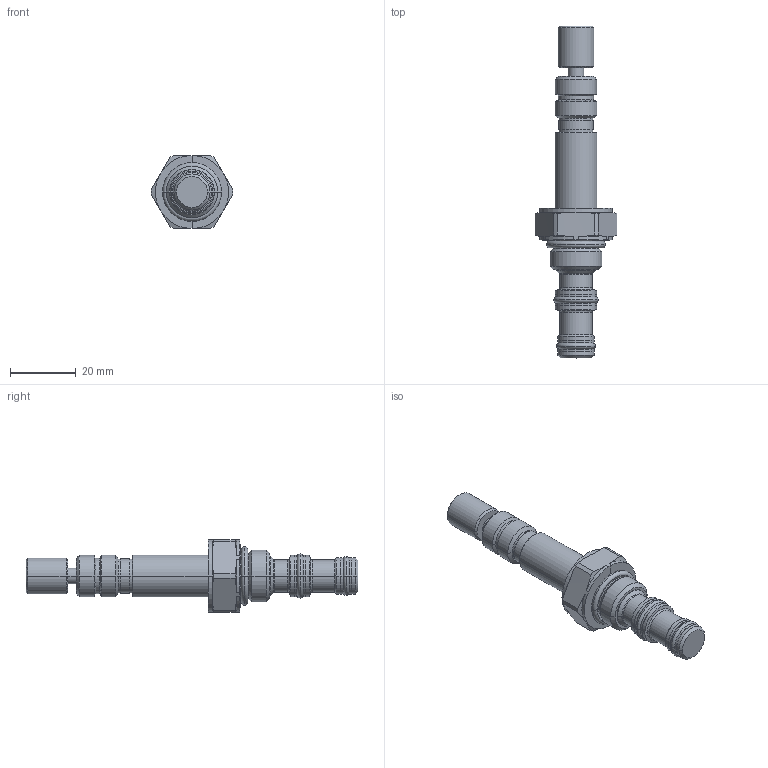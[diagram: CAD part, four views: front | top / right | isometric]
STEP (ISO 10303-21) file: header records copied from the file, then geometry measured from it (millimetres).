
FILE_DESCRIPTION((''),'2;1');
FILE_NAME('5003741_SW0001','2009-02-24T',('JCS'),(''),'PRO/ENGINEER BY PARAMETRIC TECHNOLOGY CORPORATION, 2008010','PRO/ENGINEER BY PARAMETRIC TECHNOLOGY CORPORATION, 2008010','');
FILE_SCHEMA(('CONFIG_CONTROL_DESIGN'));
Length unit declared in the file: inch
Products named in the file (1): 5003741_SW0001
Bounding box: 24.93 x 101.09 x 22.19 mm (x, y, z)
Volume: 14281.2 mm3; surface area: 6570.7 mm2
Topology: 4 solids, 4 shells, 202 faces, 438 edges, 258 vertices
Faces by surface type: cylinder 68, cone 50, plane 34, torus 26, revolution 24
Entity records: 6036 total; most frequent: CARTESIAN_POINT 1506, DIRECTION 1012, ORIENTED_EDGE 876, EDGE_CURVE 438, AXIS2_PLACEMENT_3D 430, VERTEX_POINT 258, CIRCLE 252, EDGE_LOOP 222
